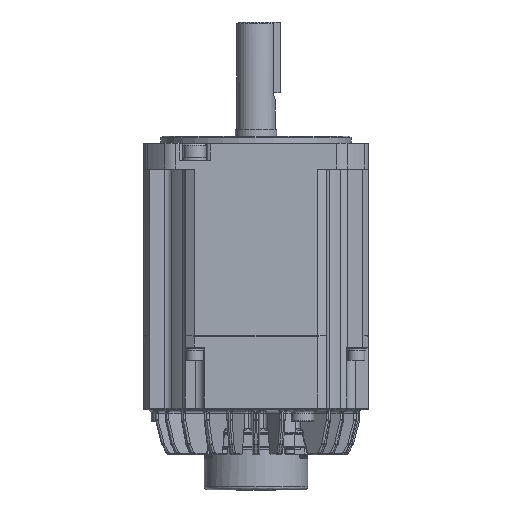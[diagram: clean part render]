
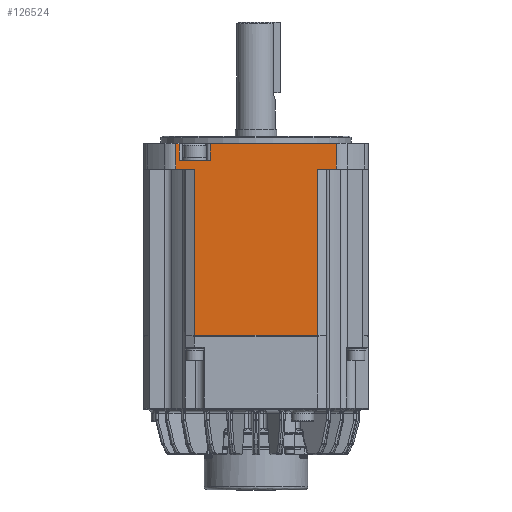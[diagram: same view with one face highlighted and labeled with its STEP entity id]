
A CAD part, front view. The second image highlights one B-rep face of the part: STEP entity #126524.
In plain terms, the highlighted planar face has unit normal (0, -1, 0).
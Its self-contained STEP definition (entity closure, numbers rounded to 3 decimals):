
#620 = DIRECTION ( 'NONE',  ( 1., 0., 0. ) ) ;
#1190 = PLANE ( 'NONE',  #106527 ) ;
#1637 = CARTESIAN_POINT ( 'NONE',  ( 168.275, 113.1, 46.059 ) ) ;
#4357 = CARTESIAN_POINT ( 'NONE',  ( 230.276, 113.1, 36.359 ) ) ;
#6161 = EDGE_LOOP ( 'NONE', ( #39079, #61141, #80532, #158200, #46902, #53797, #25328, #147188, #61595, #18688, #49005, #68839, #88940, #135465, #128119 ) ) ;
#6534 = CARTESIAN_POINT ( 'NONE',  ( 241.24, 113.1, 31.359 ) ) ;
#9174 = VERTEX_POINT ( 'NONE', #6534 ) ;
#13537 = DIRECTION ( 'NONE',  ( 0., 0., -1. ) ) ;
#15406 = VERTEX_POINT ( 'NONE', #78013 ) ;
#16668 = DIRECTION ( 'NONE',  ( -1., 0., 0. ) ) ;
#18688 = ORIENTED_EDGE ( 'NONE', *, *, #97851, .T. ) ;
#22271 = DIRECTION ( 'NONE',  ( -1., 0., 0. ) ) ;
#24392 = VECTOR ( 'NONE', #82231, 1000. ) ;
#25238 = LINE ( 'NONE', #4357, #127088 ) ;
#25297 = VERTEX_POINT ( 'NONE', #124270 ) ;
#25328 = ORIENTED_EDGE ( 'NONE', *, *, #121434, .T. ) ;
#27179 = EDGE_CURVE ( 'NONE', #96340, #43102, #48613, .T. ) ;
#27565 = CARTESIAN_POINT ( 'NONE',  ( 241.24, 113.1, 46.059 ) ) ;
#30867 = VERTEX_POINT ( 'NONE', #142318 ) ;
#35615 = DIRECTION ( 'NONE',  ( 0., 0., 1. ) ) ;
#36035 = LINE ( 'NONE', #147771, #61061 ) ;
#36470 = LINE ( 'NONE', #125176, #97921 ) ;
#37039 = VERTEX_POINT ( 'NONE', #48328 ) ;
#39079 = ORIENTED_EDGE ( 'NONE', *, *, #137531, .T. ) ;
#40250 = VECTOR ( 'NONE', #35615, 1000. ) ;
#42261 = VERTEX_POINT ( 'NONE', #73983 ) ;
#42563 = VERTEX_POINT ( 'NONE', #55608 ) ;
#43102 = VERTEX_POINT ( 'NONE', #107145 ) ;
#46902 = ORIENTED_EDGE ( 'NONE', *, *, #120867, .T. ) ;
#47932 = DIRECTION ( 'NONE',  ( -1., 0., 0. ) ) ;
#48328 = CARTESIAN_POINT ( 'NONE',  ( 161.064, 113.1, 36.359 ) ) ;
#48613 = LINE ( 'NONE', #156670, #142754 ) ;
#49005 = ORIENTED_EDGE ( 'NONE', *, *, #128176, .T. ) ;
#50958 = EDGE_CURVE ( 'NONE', #77452, #71325, #117127, .T. ) ;
#53505 = VECTOR ( 'NONE', #155512, 1000. ) ;
#53797 = ORIENTED_EDGE ( 'NONE', *, *, #114783, .T. ) ;
#53980 = VECTOR ( 'NONE', #75406, 1000. ) ;
#53985 = VECTOR ( 'NONE', #119606, 1000. ) ;
#55608 = CARTESIAN_POINT ( 'NONE',  ( 168.275, 113.1, 36.359 ) ) ;
#57117 = LINE ( 'NONE', #69921, #24392 ) ;
#58526 = DIRECTION ( 'NONE',  ( 0., 0., -1. ) ) ;
#59121 = LINE ( 'NONE', #72130, #120522 ) ;
#60475 = CARTESIAN_POINT ( 'NONE',  ( 230.276, 113.1, 31.359 ) ) ;
#60846 = DIRECTION ( 'NONE',  ( 1., 0., 0. ) ) ;
#61061 = VECTOR ( 'NONE', #60846, 1000. ) ;
#61141 = ORIENTED_EDGE ( 'NONE', *, *, #119766, .T. ) ;
#61595 = ORIENTED_EDGE ( 'NONE', *, *, #117440, .T. ) ;
#65448 = VERTEX_POINT ( 'NONE', #132426 ) ;
#68839 = ORIENTED_EDGE ( 'NONE', *, *, #113782, .T. ) ;
#69081 = LINE ( 'NONE', #109086, #40250 ) ;
#69483 = EDGE_CURVE ( 'NONE', #43102, #30867, #86589, .T. ) ;
#69921 = CARTESIAN_POINT ( 'NONE',  ( 241.24, 113.1, -64.641 ) ) ;
#70973 = EDGE_CURVE ( 'NONE', #15406, #77452, #69081, .T. ) ;
#71308 = CARTESIAN_POINT ( 'NONE',  ( 230.276, 113.1, 46.059 ) ) ;
#71325 = VERTEX_POINT ( 'NONE', #88237 ) ;
#72130 = CARTESIAN_POINT ( 'NONE',  ( 230.276, 113.1, 36.359 ) ) ;
#73484 = VECTOR ( 'NONE', #153844, 1000. ) ;
#73983 = CARTESIAN_POINT ( 'NONE',  ( 157.487, 113.1, 36.359 ) ) ;
#74290 = CARTESIAN_POINT ( 'NONE',  ( 159.275, 113.1, 31.359 ) ) ;
#75406 = DIRECTION ( 'NONE',  ( 1., 0., 0. ) ) ;
#76887 = VECTOR ( 'NONE', #22271, 1000. ) ;
#77452 = VERTEX_POINT ( 'NONE', #147519 ) ;
#78013 = CARTESIAN_POINT ( 'NONE',  ( 150.275, 113.1, 36.359 ) ) ;
#80532 = ORIENTED_EDGE ( 'NONE', *, *, #27179, .T. ) ;
#81633 = VECTOR ( 'NONE', #620, 1000. ) ;
#82025 = CARTESIAN_POINT ( 'NONE',  ( 230.276, 113.1, 46.059 ) ) ;
#82231 = DIRECTION ( 'NONE',  ( 0., 0., 1. ) ) ;
#82540 = DIRECTION ( 'NONE',  ( 1., 0., 0. ) ) ;
#83219 = DIRECTION ( 'NONE',  ( 0., 0., -1. ) ) ;
#84635 = LINE ( 'NONE', #118065, #149932 ) ;
#86589 = LINE ( 'NONE', #136562, #53980 ) ;
#87149 = DIRECTION ( 'NONE',  ( 0., -1., 0. ) ) ;
#88237 = CARTESIAN_POINT ( 'NONE',  ( 148.31, 113.1, 46.059 ) ) ;
#88940 = ORIENTED_EDGE ( 'NONE', *, *, #151937, .T. ) ;
#93788 = LINE ( 'NONE', #82025, #53505 ) ;
#94898 = CARTESIAN_POINT ( 'NONE',  ( 230.276, 113.1, -64.641 ) ) ;
#96340 = VERTEX_POINT ( 'NONE', #74290 ) ;
#97851 = EDGE_CURVE ( 'NONE', #124036, #42563, #102211, .T. ) ;
#97921 = VECTOR ( 'NONE', #137549, 1000. ) ;
#102211 = LINE ( 'NONE', #103387, #73484 ) ;
#103387 = CARTESIAN_POINT ( 'NONE',  ( 168.275, 113.1, -64.641 ) ) ;
#106527 = AXIS2_PLACEMENT_3D ( 'NONE', #135979, #87149, #13537 ) ;
#107145 = CARTESIAN_POINT ( 'NONE',  ( 159.275, 113.1, -64.641 ) ) ;
#109086 = CARTESIAN_POINT ( 'NONE',  ( 150.275, 113.1, -64.641 ) ) ;
#111606 = FACE_OUTER_BOUND ( 'NONE', #6161, .T. ) ;
#113782 = EDGE_CURVE ( 'NONE', #37039, #42261, #25238, .T. ) ;
#114178 = LINE ( 'NONE', #147700, #81633 ) ;
#114783 = EDGE_CURVE ( 'NONE', #148587, #65448, #151892, .T. ) ;
#117127 = LINE ( 'NONE', #71308, #76887 ) ;
#117440 = EDGE_CURVE ( 'NONE', #153405, #124036, #93788, .T. ) ;
#118065 = CARTESIAN_POINT ( 'NONE',  ( 148.31, 113.1, -64.641 ) ) ;
#119606 = DIRECTION ( 'NONE',  ( 0., 0., 1. ) ) ;
#119766 = EDGE_CURVE ( 'NONE', #25297, #96340, #36035, .T. ) ;
#120522 = VECTOR ( 'NONE', #47932, 1000. ) ;
#120867 = EDGE_CURVE ( 'NONE', #30867, #148587, #114178, .T. ) ;
#121434 = EDGE_CURVE ( 'NONE', #65448, #9174, #144928, .T. ) ;
#124036 = VERTEX_POINT ( 'NONE', #1637 ) ;
#124270 = CARTESIAN_POINT ( 'NONE',  ( 148.31, 113.1, 31.359 ) ) ;
#125176 = CARTESIAN_POINT ( 'NONE',  ( 230.276, 113.1, 36.359 ) ) ;
#126524 = ADVANCED_FACE ( 'NONE', ( #111606 ), #1190, .T. ) ;
#127088 = VECTOR ( 'NONE', #16668, 1000. ) ;
#128119 = ORIENTED_EDGE ( 'NONE', *, *, #50958, .T. ) ;
#128176 = EDGE_CURVE ( 'NONE', #42563, #37039, #36470, .T. ) ;
#132426 = CARTESIAN_POINT ( 'NONE',  ( 230.276, 113.1, 31.359 ) ) ;
#135465 = ORIENTED_EDGE ( 'NONE', *, *, #70973, .T. ) ;
#135979 = CARTESIAN_POINT ( 'NONE',  ( 230.276, 113.1, -64.641 ) ) ;
#136562 = CARTESIAN_POINT ( 'NONE',  ( 230.276, 113.1, -64.641 ) ) ;
#137531 = EDGE_CURVE ( 'NONE', #71325, #25297, #84635, .T. ) ;
#137549 = DIRECTION ( 'NONE',  ( -1., 0., 0. ) ) ;
#141124 = VECTOR ( 'NONE', #82540, 1000. ) ;
#142318 = CARTESIAN_POINT ( 'NONE',  ( 194.775, 113.1, -64.641 ) ) ;
#142754 = VECTOR ( 'NONE', #83219, 1000. ) ;
#144928 = LINE ( 'NONE', #60475, #141124 ) ;
#147188 = ORIENTED_EDGE ( 'NONE', *, *, #152498, .T. ) ;
#147519 = CARTESIAN_POINT ( 'NONE',  ( 150.275, 113.1, 46.059 ) ) ;
#147700 = CARTESIAN_POINT ( 'NONE',  ( 230.276, 113.1, -64.641 ) ) ;
#147771 = CARTESIAN_POINT ( 'NONE',  ( 230.276, 113.1, 31.359 ) ) ;
#148587 = VERTEX_POINT ( 'NONE', #154515 ) ;
#149932 = VECTOR ( 'NONE', #58526, 1000. ) ;
#151892 = LINE ( 'NONE', #94898, #53985 ) ;
#151937 = EDGE_CURVE ( 'NONE', #42261, #15406, #59121, .T. ) ;
#152498 = EDGE_CURVE ( 'NONE', #9174, #153405, #57117, .T. ) ;
#153405 = VERTEX_POINT ( 'NONE', #27565 ) ;
#153844 = DIRECTION ( 'NONE',  ( 0., 0., -1. ) ) ;
#154515 = CARTESIAN_POINT ( 'NONE',  ( 230.276, 113.1, -64.641 ) ) ;
#155512 = DIRECTION ( 'NONE',  ( -1., 0., 0. ) ) ;
#156670 = CARTESIAN_POINT ( 'NONE',  ( 159.275, 113.1, -64.641 ) ) ;
#158200 = ORIENTED_EDGE ( 'NONE', *, *, #69483, .T. ) ;
